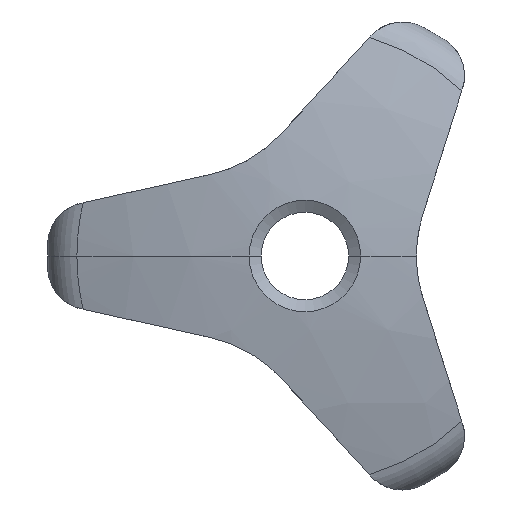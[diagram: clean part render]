
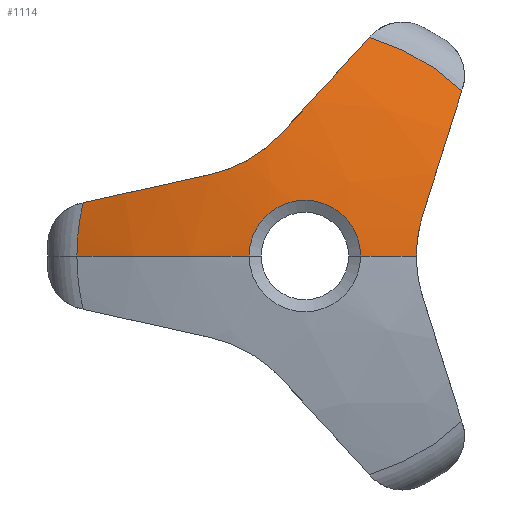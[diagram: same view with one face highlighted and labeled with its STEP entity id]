
A CAD part, left-side view. The second image highlights one B-rep face of the part: STEP entity #1114.
In plain terms, the highlighted spherical face has radius 85 mm.
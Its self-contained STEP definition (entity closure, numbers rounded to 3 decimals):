
#20 = EDGE_CURVE ( 'NONE', #999, #502, #1270, .T. ) ;
#31 = CARTESIAN_POINT ( 'NONE',  ( -30.743, 0., 0. ) ) ;
#38 = DIRECTION ( 'NONE',  ( 0., 1., 0. ) ) ;
#41 = CARTESIAN_POINT ( 'NONE',  ( -33.829, -13.495, 4.031 ) ) ;
#43 = DIRECTION ( 'NONE',  ( 1., 0., 0. ) ) ;
#70 = SPHERICAL_SURFACE ( 'NONE', #846, 85. ) ;
#79 = CARTESIAN_POINT ( 'NONE',  ( -34., -13., 0. ) ) ;
#129 = CARTESIAN_POINT ( 'NONE',  ( -30.743, -18.295, 19.257 ) ) ;
#142 = VERTEX_POINT ( 'NONE', #1052 ) ;
#144 = CARTESIAN_POINT ( 'NONE',  ( -33.829, 3.257, 13.702 ) ) ;
#157 = B_SPLINE_CURVE_WITH_KNOTS ( 'NONE', 3,
 ( #1261, #144, #626, #646, #635, #1123, #1131, #512, #1013, #1377, #1352, #671 ),
 .UNSPECIFIED., .F., .F.,
 ( 4, 2, 2, 2, 2, 4 ),
 ( 0., 0.002, 0.005, 0.006, 0.007, 0.01 ),
 .UNSPECIFIED. ) ;
#162 = B_SPLINE_CURVE_WITH_KNOTS ( 'NONE', 3,
 ( #242, #197, #418, #916, #1280, #1263, #41, #166 ),
 .UNSPECIFIED., .F., .F.,
 ( 4, 2, 2, 4 ),
 ( 0.005, 0.006, 0.007, 0.01 ),
 .UNSPECIFIED. ) ;
#166 = CARTESIAN_POINT ( 'NONE',  ( -33.744, -13.741, 4.811 ) ) ;
#183 = DIRECTION ( 'NONE',  ( 0., 0.954, 0.301 ) ) ;
#185 = CARTESIAN_POINT ( 'NONE',  ( -33.744, 11.037, 9.494 ) ) ;
#197 = CARTESIAN_POINT ( 'NONE',  ( -34., -13., 0.41 ) ) ;
#198 = EDGE_CURVE ( 'NONE', #503, #1592, #540, .T. ) ;
#202 = ORIENTED_EDGE ( 'NONE', *, *, #20, .T. ) ;
#236 = ORIENTED_EDGE ( 'NONE', *, *, #390, .T. ) ;
#242 = CARTESIAN_POINT ( 'NONE',  ( -34., -13., 0. ) ) ;
#244 = CARTESIAN_POINT ( 'NONE',  ( 50., 2.523, 11.381 ) ) ;
#248 = CIRCLE ( 'NONE', #1354, 84.197 ) ;
#333 = FACE_OUTER_BOUND ( 'NONE', #440, .T. ) ;
#371 = ORIENTED_EDGE ( 'NONE', *, *, #198, .F. ) ;
#390 = EDGE_CURVE ( 'NONE', #142, #681, #248, .T. ) ;
#405 = CARTESIAN_POINT ( 'NONE',  ( -30.743, 0., 0. ) ) ;
#409 = DIRECTION ( 'NONE',  ( 0., 0.301, -0.954 ) ) ;
#418 = CARTESIAN_POINT ( 'NONE',  ( -33.995, -13.016, 0.821 ) ) ;
#424 = AXIS2_PLACEMENT_3D ( 'NONE', #426, #183, #409 ) ;
#426 = CARTESIAN_POINT ( 'NONE',  ( 50., -11.118, -3.506 ) ) ;
#440 = EDGE_LOOP ( 'NONE', ( #718, #1223, #1470, #1321, #1540, #236, #1342, #202, #816, #371 ) ) ;
#502 = VERTEX_POINT ( 'NONE', #1145 ) ;
#503 = VERTEX_POINT ( 'NONE', #645 ) ;
#512 = CARTESIAN_POINT ( 'NONE',  ( -33.973, 7.951, 10.511 ) ) ;
#525 = AXIS2_PLACEMENT_3D ( 'NONE', #405, #1525, #1283 ) ;
#539 = CARTESIAN_POINT ( 'NONE',  ( 50., 0., 0. ) ) ;
#540 = CIRCLE ( 'NONE', #893, 85. ) ;
#561 = DIRECTION ( 'NONE',  ( 0., 1., 0. ) ) ;
#611 = CARTESIAN_POINT ( 'NONE',  ( -34.751, -6.5, 0. ) ) ;
#624 = DIRECTION ( 'NONE',  ( 0., -0.737, -0.676 ) ) ;
#626 = CARTESIAN_POINT ( 'NONE',  ( -33.893, 3.85, 13.147 ) ) ;
#635 = CARTESIAN_POINT ( 'NONE',  ( -34., 5.784, 11.672 ) ) ;
#645 = CARTESIAN_POINT ( 'NONE',  ( -34.751, 6.5, 0. ) ) ;
#646 = CARTESIAN_POINT ( 'NONE',  ( -33.978, 5.113, 12.132 ) ) ;
#671 = CARTESIAN_POINT ( 'NONE',  ( -33.744, 11.037, 9.494 ) ) ;
#681 = VERTEX_POINT ( 'NONE', #762 ) ;
#718 = ORIENTED_EDGE ( 'NONE', *, *, #1165, .F. ) ;
#725 = CARTESIAN_POINT ( 'NONE',  ( -33.744, -13.741, 4.811 ) ) ;
#731 = DIRECTION ( 'NONE',  ( 0., 1., 0. ) ) ;
#762 = CARTESIAN_POINT ( 'NONE',  ( -33.744, 2.704, 14.305 ) ) ;
#767 = CIRCLE ( 'NONE', #1556, 85. ) ;
#816 = ORIENTED_EDGE ( 'NONE', *, *, #1439, .F. ) ;
#846 = AXIS2_PLACEMENT_3D ( 'NONE', #1067, #1316, #561 ) ;
#865 = DIRECTION ( 'NONE',  ( -1., 0., 0. ) ) ;
#893 = AXIS2_PLACEMENT_3D ( 'NONE', #1053, #1072, #1421 ) ;
#916 = CARTESIAN_POINT ( 'NONE',  ( -33.973, -13.078, 1.634 ) ) ;
#926 = DIRECTION ( 'NONE',  ( 0., 0., 1. ) ) ;
#933 = VERTEX_POINT ( 'NONE', #129 ) ;
#945 = VERTEX_POINT ( 'NONE', #611 ) ;
#953 = VERTEX_POINT ( 'NONE', #725 ) ;
#959 = EDGE_CURVE ( 'NONE', #1128, #953, #162, .T. ) ;
#972 = DIRECTION ( 'NONE',  ( 0., -0.976, 0.216 ) ) ;
#999 = VERTEX_POINT ( 'NONE', #185 ) ;
#1004 = AXIS2_PLACEMENT_3D ( 'NONE', #1353, #865, #731 ) ;
#1013 = CARTESIAN_POINT ( 'NONE',  ( -33.957, 8.324, 10.349 ) ) ;
#1021 = AXIS2_PLACEMENT_3D ( 'NONE', #244, #1289, #972 ) ;
#1024 = CIRCLE ( 'NONE', #1004, 6.5 ) ;
#1052 = CARTESIAN_POINT ( 'NONE',  ( -30.743, -7.53, 25.473 ) ) ;
#1053 = CARTESIAN_POINT ( 'NONE',  ( 50., 0., 0. ) ) ;
#1057 = CARTESIAN_POINT ( 'NONE',  ( -30.743, 26.562, 0. ) ) ;
#1067 = CARTESIAN_POINT ( 'NONE',  ( 50., 0., 0. ) ) ;
#1072 = DIRECTION ( 'NONE',  ( 0., 0., -1. ) ) ;
#1114 = ADVANCED_FACE ( 'NONE', ( #333 ), #70, .T. ) ;
#1120 = DIRECTION ( 'NONE',  ( 0., -0.676, 0.737 ) ) ;
#1123 = CARTESIAN_POINT ( 'NONE',  ( -34., 6.85, 11.056 ) ) ;
#1128 = VERTEX_POINT ( 'NONE', #79 ) ;
#1131 = CARTESIAN_POINT ( 'NONE',  ( -33.995, 7.215, 10.864 ) ) ;
#1132 = AXIS2_PLACEMENT_3D ( 'NONE', #31, #43, #38 ) ;
#1145 = CARTESIAN_POINT ( 'NONE',  ( -30.743, 25.825, 6.216 ) ) ;
#1165 = EDGE_CURVE ( 'NONE', #945, #503, #1024, .T. ) ;
#1223 = ORIENTED_EDGE ( 'NONE', *, *, #1521, .T. ) ;
#1261 = CARTESIAN_POINT ( 'NONE',  ( -33.744, 2.704, 14.305 ) ) ;
#1263 = CARTESIAN_POINT ( 'NONE',  ( -33.893, -13.311, 3.24 ) ) ;
#1270 = CIRCLE ( 'NONE', #1021, 84.197 ) ;
#1280 = CARTESIAN_POINT ( 'NONE',  ( -33.957, -13.125, 2.037 ) ) ;
#1283 = DIRECTION ( 'NONE',  ( 0., 1., 0. ) ) ;
#1289 = DIRECTION ( 'NONE',  ( 0., -0.216, -0.976 ) ) ;
#1298 = CIRCLE ( 'NONE', #525, 26.563 ) ;
#1316 = DIRECTION ( 'NONE',  ( 0., 0., 1. ) ) ;
#1321 = ORIENTED_EDGE ( 'NONE', *, *, #1475, .T. ) ;
#1342 = ORIENTED_EDGE ( 'NONE', *, *, #1378, .T. ) ;
#1352 = CARTESIAN_POINT ( 'NONE',  ( -33.829, 10.238, 9.671 ) ) ;
#1353 = CARTESIAN_POINT ( 'NONE',  ( -34.751, 0., 0. ) ) ;
#1354 = AXIS2_PLACEMENT_3D ( 'NONE', #1591, #624, #1120 ) ;
#1377 = CARTESIAN_POINT ( 'NONE',  ( -33.893, 9.46, 9.908 ) ) ;
#1378 = EDGE_CURVE ( 'NONE', #681, #999, #157, .T. ) ;
#1415 = DIRECTION ( 'NONE',  ( 0., -1., 0. ) ) ;
#1421 = DIRECTION ( 'NONE',  ( -1., 0., 0. ) ) ;
#1439 = EDGE_CURVE ( 'NONE', #1592, #502, #1589, .T. ) ;
#1459 = CIRCLE ( 'NONE', #424, 84.197 ) ;
#1464 = EDGE_CURVE ( 'NONE', #142, #933, #1298, .T. ) ;
#1470 = ORIENTED_EDGE ( 'NONE', *, *, #959, .T. ) ;
#1475 = EDGE_CURVE ( 'NONE', #953, #933, #1459, .T. ) ;
#1521 = EDGE_CURVE ( 'NONE', #945, #1128, #767, .T. ) ;
#1525 = DIRECTION ( 'NONE',  ( 1., 0., 0. ) ) ;
#1540 = ORIENTED_EDGE ( 'NONE', *, *, #1464, .F. ) ;
#1556 = AXIS2_PLACEMENT_3D ( 'NONE', #539, #926, #1415 ) ;
#1589 = CIRCLE ( 'NONE', #1132, 26.563 ) ;
#1591 = CARTESIAN_POINT ( 'NONE',  ( 50., 8.595, 7.876 ) ) ;
#1592 = VERTEX_POINT ( 'NONE', #1057 ) ;
